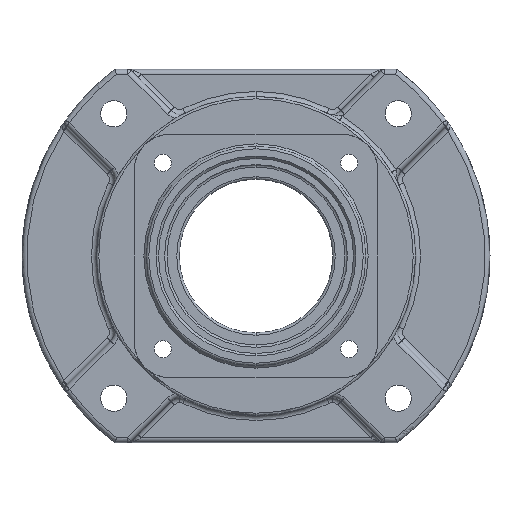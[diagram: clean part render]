
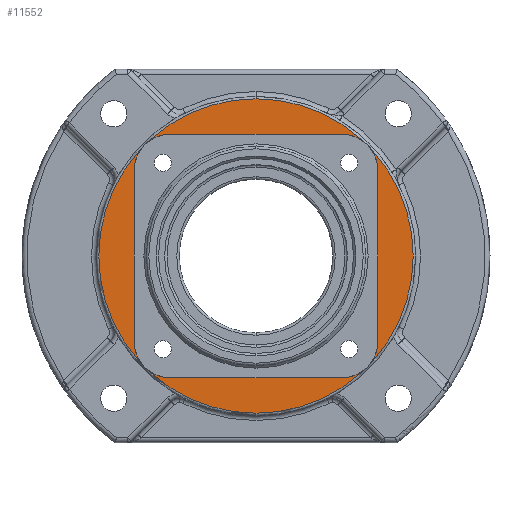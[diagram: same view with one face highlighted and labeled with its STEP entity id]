
A CAD part, left-side view. The second image highlights one B-rep face of the part: STEP entity #11552.
In plain terms, the highlighted planar face has unit normal (-1, 0, 0).
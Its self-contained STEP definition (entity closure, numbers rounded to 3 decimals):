
#77 = CARTESIAN_POINT ( 'NONE',  ( -45.576, 0., 64.5 ) ) ;
#92 = CARTESIAN_POINT ( 'NONE',  ( -45.576, 0., -64.5 ) ) ;
#163 = ORIENTED_EDGE ( 'NONE', *, *, #2687, .T. ) ;
#164 = ORIENTED_EDGE ( 'NONE', *, *, #10728, .T. ) ;
#165 = ORIENTED_EDGE ( 'NONE', *, *, #10729, .F. ) ;
#166 = ORIENTED_EDGE ( 'NONE', *, *, #10730, .F. ) ;
#167 = ORIENTED_EDGE ( 'NONE', *, *, #10731, .F. ) ;
#168 = ORIENTED_EDGE ( 'NONE', *, *, #10732, .F. ) ;
#169 = ORIENTED_EDGE ( 'NONE', *, *, #10733, .F. ) ;
#170 = ORIENTED_EDGE ( 'NONE', *, *, #10734, .F. ) ;
#171 = ORIENTED_EDGE ( 'NONE', *, *, #10735, .F. ) ;
#172 = ORIENTED_EDGE ( 'NONE', *, *, #10736, .F. ) ;
#372 = AXIS2_PLACEMENT_3D ( 'NONE', #7144, #7150, #7151 ) ;
#663 = FACE_OUTER_BOUND ( 'NONE', #11441, .T. ) ;
#667 = FACE_BOUND ( 'NONE', #11417, .T. ) ;
#1228 = CIRCLE ( 'NONE', #1375, 64.5 ) ;
#1375 = AXIS2_PLACEMENT_3D ( 'NONE', #2017, #2018, #2019 ) ;
#2017 = CARTESIAN_POINT ( 'NONE',  ( -45.576, 0., 0. ) ) ;
#2018 = DIRECTION ( 'NONE',  ( -1., 0., 0. ) ) ;
#2019 = DIRECTION ( 'NONE',  ( 0., 0., 1. ) ) ;
#2307 = VERTEX_POINT ( 'NONE', #11120 ) ;
#2313 = VERTEX_POINT ( 'NONE', #11123 ) ;
#2317 = VERTEX_POINT ( 'NONE', #11125 ) ;
#2552 = VERTEX_POINT ( 'NONE', #77 ) ;
#2567 = VERTEX_POINT ( 'NONE', #92 ) ;
#2687 = EDGE_CURVE ( 'NONE', #2552, #2567, #1228, .T. ) ;
#5396 = CARTESIAN_POINT ( 'NONE',  ( -45.576, 35., 50. ) ) ;
#5422 = CARTESIAN_POINT ( 'NONE',  ( -45.576, -50., 35. ) ) ;
#5425 = CARTESIAN_POINT ( 'NONE',  ( -45.576, 50., 35. ) ) ;
#5477 = CARTESIAN_POINT ( 'NONE',  ( -45.576, -50., -35. ) ) ;
#5510 = CARTESIAN_POINT ( 'NONE',  ( -45.576, 50., -35. ) ) ;
#5689 = DIRECTION ( 'NONE',  ( 0., -1., 0. ) ) ;
#5690 = CARTESIAN_POINT ( 'NONE',  ( -45.576, 35., -50. ) ) ;
#5715 = CARTESIAN_POINT ( 'NONE',  ( -45.576, 0., 0. ) ) ;
#5716 = DIRECTION ( 'NONE',  ( -1., 0., 0. ) ) ;
#5717 = DIRECTION ( 'NONE',  ( 0., 0., 1. ) ) ;
#5718 = DIRECTION ( 'NONE',  ( 0., 0., -1. ) ) ;
#5719 = CARTESIAN_POINT ( 'NONE',  ( -45.576, 50., -35. ) ) ;
#5720 = CARTESIAN_POINT ( 'NONE',  ( -45.576, 35., -35. ) ) ;
#5721 = DIRECTION ( 'NONE',  ( -1., 0., 0. ) ) ;
#5722 = DIRECTION ( 'NONE',  ( 0., 0., 1. ) ) ;
#5723 = DIRECTION ( 'NONE',  ( 0., 1., 0. ) ) ;
#5724 = CARTESIAN_POINT ( 'NONE',  ( -45.576, 35., 50. ) ) ;
#5725 = CARTESIAN_POINT ( 'NONE',  ( -45.576, 35., 35. ) ) ;
#5726 = DIRECTION ( 'NONE',  ( -1., 0., 0. ) ) ;
#5727 = DIRECTION ( 'NONE',  ( 0., 0., -1. ) ) ;
#5728 = DIRECTION ( 'NONE',  ( 0., 0., 1. ) ) ;
#5729 = CARTESIAN_POINT ( 'NONE',  ( -45.576, -50., -35. ) ) ;
#5730 = CARTESIAN_POINT ( 'NONE',  ( -45.576, -35., 35. ) ) ;
#5731 = DIRECTION ( 'NONE',  ( -1., 0., 0. ) ) ;
#5732 = DIRECTION ( 'NONE',  ( 0., 0., 1. ) ) ;
#5733 = CARTESIAN_POINT ( 'NONE',  ( -45.576, -35., -35. ) ) ;
#5734 = DIRECTION ( 'NONE',  ( -1., 0., 0. ) ) ;
#5735 = DIRECTION ( 'NONE',  ( 0., 0., 1. ) ) ;
#7144 = CARTESIAN_POINT ( 'NONE',  ( -45.576, 0., 0. ) ) ;
#7146 = PLANE ( 'NONE',  #372 ) ;
#7150 = DIRECTION ( 'NONE',  ( -1., 0., 0. ) ) ;
#7151 = DIRECTION ( 'NONE',  ( 0., 0., 1. ) ) ;
#7582 = CIRCLE ( 'NONE', #11992, 15. ) ;
#7595 = CIRCLE ( 'NONE', #11991, 64.5 ) ;
#7597 = LINE ( 'NONE', #5690, #7599 ) ;
#7598 = LINE ( 'NONE', #5719, #7602 ) ;
#7599 = VECTOR ( 'NONE', #5689, 1000. ) ;
#7600 = CIRCLE ( 'NONE', #11993, 15. ) ;
#7601 = LINE ( 'NONE', #5724, #7605 ) ;
#7602 = VECTOR ( 'NONE', #5718, 1000. ) ;
#7603 = CIRCLE ( 'NONE', #11994, 15. ) ;
#7604 = LINE ( 'NONE', #5729, #7608 ) ;
#7605 = VECTOR ( 'NONE', #5723, 1000. ) ;
#7606 = CIRCLE ( 'NONE', #11995, 15. ) ;
#7608 = VECTOR ( 'NONE', #5728, 1000. ) ;
#9161 = VERTEX_POINT ( 'NONE', #5396 ) ;
#9214 = VERTEX_POINT ( 'NONE', #5422 ) ;
#9227 = VERTEX_POINT ( 'NONE', #5425 ) ;
#9291 = VERTEX_POINT ( 'NONE', #5477 ) ;
#9324 = VERTEX_POINT ( 'NONE', #5510 ) ;
#10728 = EDGE_CURVE ( 'NONE', #2567, #2552, #7595, .T. ) ;
#10729 = EDGE_CURVE ( 'NONE', #2317, #2313, #7597, .T. ) ;
#10730 = EDGE_CURVE ( 'NONE', #9324, #2317, #7582, .T. ) ;
#10731 = EDGE_CURVE ( 'NONE', #9227, #9324, #7598, .T. ) ;
#10732 = EDGE_CURVE ( 'NONE', #9161, #9227, #7600, .T. ) ;
#10733 = EDGE_CURVE ( 'NONE', #2307, #9161, #7601, .T. ) ;
#10734 = EDGE_CURVE ( 'NONE', #9214, #2307, #7603, .T. ) ;
#10735 = EDGE_CURVE ( 'NONE', #9291, #9214, #7604, .T. ) ;
#10736 = EDGE_CURVE ( 'NONE', #2313, #9291, #7606, .T. ) ;
#11120 = CARTESIAN_POINT ( 'NONE',  ( -45.576, -35., 50. ) ) ;
#11123 = CARTESIAN_POINT ( 'NONE',  ( -45.576, -35., -50. ) ) ;
#11125 = CARTESIAN_POINT ( 'NONE',  ( -45.576, 35., -50. ) ) ;
#11417 = EDGE_LOOP ( 'NONE', ( #165, #166, #167, #168, #169, #170, #171, #172 ) ) ;
#11441 = EDGE_LOOP ( 'NONE', ( #163, #164 ) ) ;
#11552 = ADVANCED_FACE ( 'NONE', ( #663, #667 ), #7146, .T. ) ;
#11991 = AXIS2_PLACEMENT_3D ( 'NONE', #5715, #5716, #5717 ) ;
#11992 = AXIS2_PLACEMENT_3D ( 'NONE', #5720, #5721, #5722 ) ;
#11993 = AXIS2_PLACEMENT_3D ( 'NONE', #5725, #5726, #5727 ) ;
#11994 = AXIS2_PLACEMENT_3D ( 'NONE', #5730, #5731, #5732 ) ;
#11995 = AXIS2_PLACEMENT_3D ( 'NONE', #5733, #5734, #5735 ) ;
